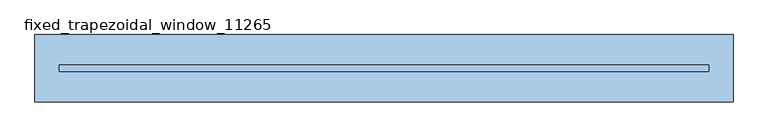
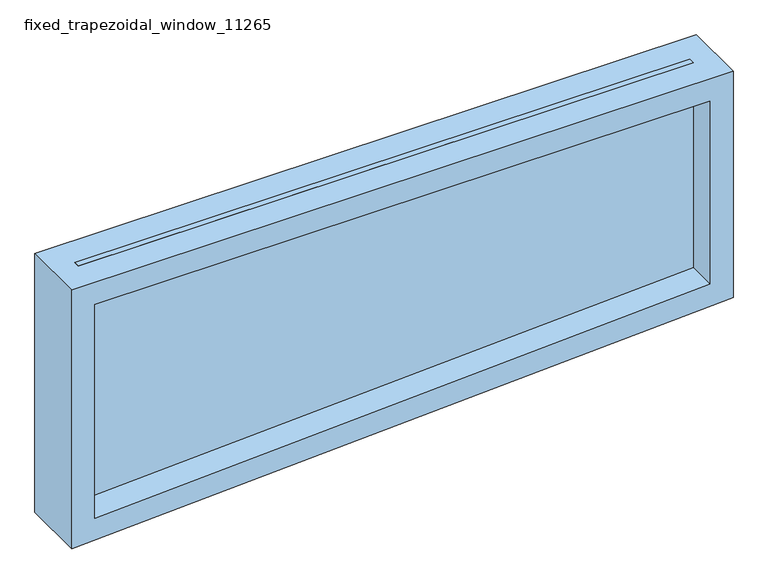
"""IFC4 building model written with IfcOpenShell, lengths in millimetres: window geometry, fixed_trapezoidal_window_11265 : Menuiserie 11.1."""

from ifc_helpers import new_model, si_unit, frame, origin, place, context, project, spatial, polyline, outline, extrude, source, transform, mapped, element, save


def fixed_trapezoidal_window_11265_97f25e5e(model_context):
    return source(origin(), model_context, "Body", "SweptSolid", [
        extrude(outline(polyline([(1819.2, -712.3), (1272.7320304, -712.3), (1343.3986799, 636.1), (1819.2, 636.1), (1819.2, -712.3)])), frame((0.0, -6.35, 0.0), z_axis=(0.0, 1.0, 0.0), x_axis=(0.0, 0.0, 1.0)), (0.0, 0.0, 1.0), 12.7),
        extrude(outline(polyline([(1819.2, 686.9), (1819.2, -763.1), (1219.2, -763.1), (1295.19128, 686.9), (1819.2, 686.9)]), holes=[polyline([(1768.4, 636.1), (1343.3986799, 636.1), (1272.7320304, -712.3), (1768.4, -712.3), (1768.4, 636.1)])]), frame((0.0, -69.85, 0.0), z_axis=(0.0, 1.0, 0.0), x_axis=(0.0, 0.0, 1.0)), (0.0, 0.0, 1.0), 139.7),
    ])


if __name__ == "__main__":
    model = new_model("IFC4")
    model_context = context("Model", 3, world=origin())
    ifc_project = project(units=[si_unit("LENGTHUNIT", "METRE", prefix="MILLI")], contexts=[model_context])
    site = spatial("IfcSite", under=ifc_project)
    building = spatial("IfcBuilding", under=site)
    placement = place(None, origin())
    fixed_trapezoidal_window_11265_shape = fixed_trapezoidal_window_11265_97f25e5e(model_context)
    element("IfcWindow", 1, ObjectType="fixed_trapezoidal_window_11265 : Menuiserie 11.1", at=placement, inside=building, context=model_context, shape_type="MappedRepresentation", body=[
        mapped(fixed_trapezoidal_window_11265_shape, transform((0.0, 0.0, 0.0), x_axis=(1.0, 0.0, 0.0), y_axis=(0.0, 1.0, 0.0), z_axis=(0.0, 0.0, 1.0))),
    ])
    save(model, "model.ifc")
